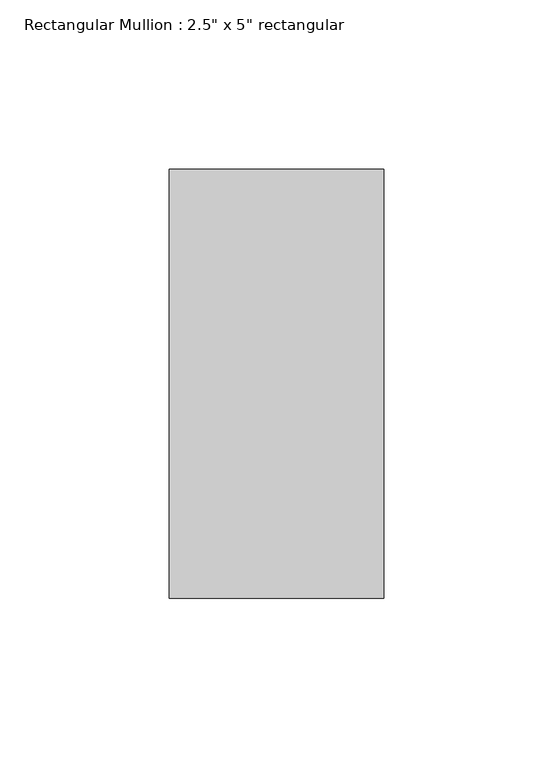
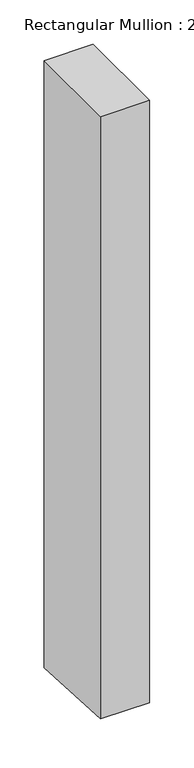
"""IFC4 building model written with IfcOpenShell, lengths in millimetres: member geometry."""

from ifc_helpers import new_model, si_unit, frame, origin, place, context, project, spatial, polyline, outline, extrude, source, transform, mapped, element, save


def member_43bcb4d4(model_context):
    return source(origin(), model_context, "Body", "SweptSolid", [
        extrude(outline(polyline([(-63.5, 0.0), (63.5, 0.0), (63.5, -833.8818088), (-63.5, -827.5566405), (-63.5, 0.0)])), frame((-63.5, 0.0, 0.0), z_axis=(1.0, 0.0, 0.0), x_axis=(0.0, 1.0, 0.0)), (0.0, 0.0, 1.0), 63.5),
    ])


if __name__ == "__main__":
    model = new_model("IFC4")
    model_context = context("Model", 3, world=origin())
    ifc_project = project(units=[si_unit("LENGTHUNIT", "METRE", prefix="MILLI")], contexts=[model_context])
    site = spatial("IfcSite", under=ifc_project)
    building = spatial("IfcBuilding", under=site)
    placement = place(None, origin())
    member_shape = member_43bcb4d4(model_context)
    element("IfcMember", 1, ObjectType="Rectangular Mullion : 2.5\" x 5\" rectangular", at=placement, inside=building, context=model_context, shape_type="MappedRepresentation", body=[
        mapped(member_shape, transform((0.0, 0.0, 0.0), x_axis=(1.0, 0.0, 0.0), y_axis=(0.0, 1.0, 0.0), z_axis=(0.0, 0.0, 1.0))),
    ])
    save(model, "model.ifc")
